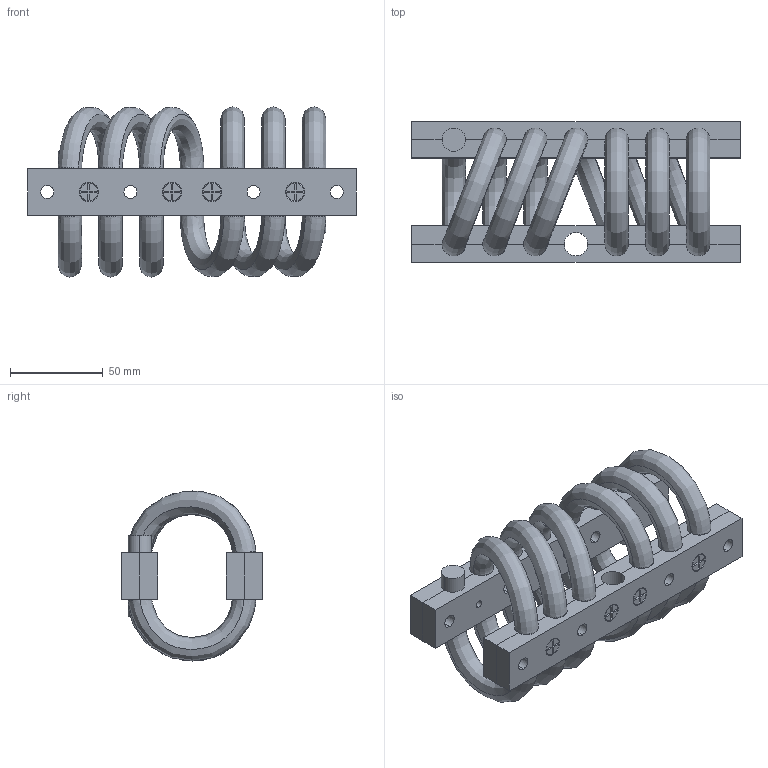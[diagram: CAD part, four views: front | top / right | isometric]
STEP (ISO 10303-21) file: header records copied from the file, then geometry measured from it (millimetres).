
FILE_DESCRIPTION (( 'STEP AP214' ), '1' );
FILE_NAME ('WR16-206-6DM.STEP', '2018-12-07T10:04:35', ( 'user' ), ( 'Microsoft' ), 'SwSTEP 2.0', 'SolidWorks 2016', '' );
FILE_SCHEMA (( 'AUTOMOTIVE_DESIGN' ));
Length unit declared in the file: millimetre
Products named in the file (1): WR16-206-6DM
Bounding box: 177.8 x 76 x 92 mm (x, y, z)
Volume: 318831.8 mm3; surface area: 125796.1 mm2
Topology: 26 solids, 26 shells, 484 faces, 1166 edges, 758 vertices
Faces by surface type: plane 216, cylinder 194, cone 48, bspline 26
Entity records: 27040 total; most frequent: CARTESIAN_POINT 14612, DIRECTION 2348, ORIENTED_EDGE 2332, EDGE_CURVE 1166, AXIS2_PLACEMENT_3D 843, VERTEX_POINT 758, LINE 662, VECTOR 662
